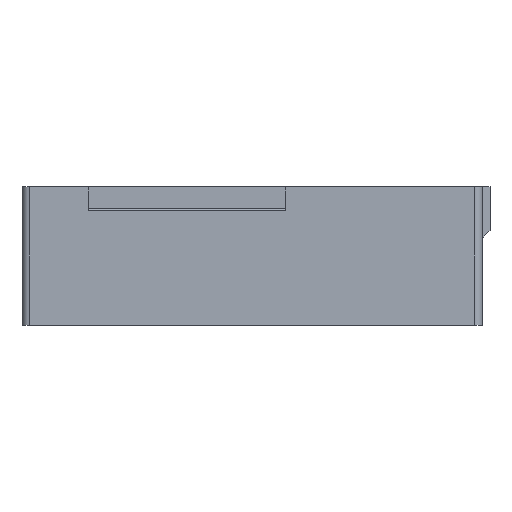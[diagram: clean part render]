
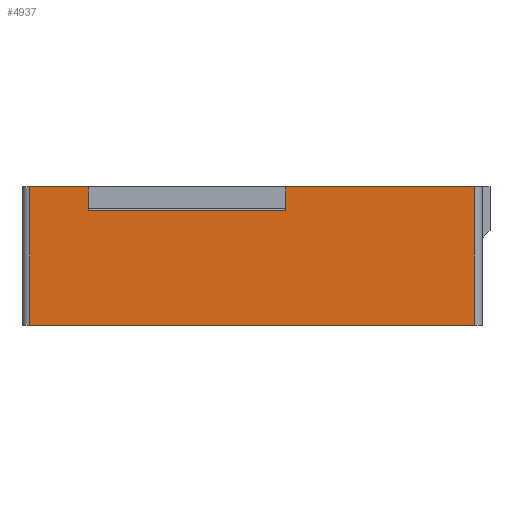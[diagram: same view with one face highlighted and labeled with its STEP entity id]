
A CAD part, left-side view. The second image highlights one B-rep face of the part: STEP entity #4937.
In plain terms, the highlighted planar face has unit normal (-1, 0, 0).
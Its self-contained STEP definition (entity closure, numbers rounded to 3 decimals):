
#245=FACE_OUTER_BOUND('',#508,.T.);
#508=EDGE_LOOP('',(#3428,#3429,#3430,#3431,#3432,#3433,#3434,#3435));
#902=LINE('',#6912,#1548);
#903=LINE('',#6919,#1549);
#907=LINE('',#6927,#1553);
#910=LINE('',#6932,#1556);
#922=LINE('',#6974,#1568);
#923=LINE('',#6976,#1569);
#924=LINE('',#6978,#1570);
#925=LINE('',#6979,#1571);
#1548=VECTOR('',#5588,10.);
#1549=VECTOR('',#5595,10.);
#1553=VECTOR('',#5601,10.);
#1556=VECTOR('',#5606,10.);
#1568=VECTOR('',#5622,10.);
#1569=VECTOR('',#5623,10.);
#1570=VECTOR('',#5624,10.);
#1571=VECTOR('',#5625,10.);
#2189=VERTEX_POINT('',#6909);
#2190=VERTEX_POINT('',#6911);
#2192=VERTEX_POINT('',#6917);
#2193=VERTEX_POINT('',#6918);
#2196=VERTEX_POINT('',#6926);
#2209=VERTEX_POINT('',#6973);
#2210=VERTEX_POINT('',#6975);
#2211=VERTEX_POINT('',#6977);
#2674=EDGE_CURVE('',#2189,#2190,#902,.T.);
#2677=EDGE_CURVE('',#2192,#2193,#903,.T.);
#2681=EDGE_CURVE('',#2196,#2192,#907,.T.);
#2684=EDGE_CURVE('',#2189,#2196,#910,.T.);
#2698=EDGE_CURVE('',#2209,#2193,#922,.T.);
#2699=EDGE_CURVE('',#2210,#2209,#923,.T.);
#2700=EDGE_CURVE('',#2211,#2210,#924,.T.);
#2701=EDGE_CURVE('',#2190,#2211,#925,.T.);
#3428=ORIENTED_EDGE('',*,*,#2684,.T.);
#3429=ORIENTED_EDGE('',*,*,#2681,.T.);
#3430=ORIENTED_EDGE('',*,*,#2677,.T.);
#3431=ORIENTED_EDGE('',*,*,#2698,.F.);
#3432=ORIENTED_EDGE('',*,*,#2699,.F.);
#3433=ORIENTED_EDGE('',*,*,#2700,.F.);
#3434=ORIENTED_EDGE('',*,*,#2701,.F.);
#3435=ORIENTED_EDGE('',*,*,#2674,.F.);
#4720=PLANE('',#5193);
#4937=ADVANCED_FACE('',(#245),#4720,.T.);
#5193=AXIS2_PLACEMENT_3D('',#6972,#5620,#5621);
#5588=DIRECTION('',(0.,-1.,0.));
#5595=DIRECTION('',(0.,0.,1.));
#5601=DIRECTION('',(0.,1.,0.));
#5606=DIRECTION('',(0.,0.,-1.));
#5620=DIRECTION('center_axis',(-1.,0.,0.));
#5621=DIRECTION('ref_axis',(0.,-1.,0.));
#5622=DIRECTION('',(0.,-1.,0.));
#5623=DIRECTION('',(0.,0.,1.));
#5624=DIRECTION('',(0.,1.,0.));
#5625=DIRECTION('',(0.,0.,-1.));
#6909=CARTESIAN_POINT('',(-151.,-53.802,35.));
#6911=CARTESIAN_POINT('',(-151.,-101.552,35.));
#6912=CARTESIAN_POINT('',(-151.,-103.552,35.));
#6917=CARTESIAN_POINT('',(-151.,-3.802,29.));
#6918=CARTESIAN_POINT('',(-151.,-3.802,35.));
#6919=CARTESIAN_POINT('',(-151.,-3.802,14.5));
#6926=CARTESIAN_POINT('',(-151.,-53.802,29.));
#6927=CARTESIAN_POINT('',(-151.,-20.427,29.));
#6932=CARTESIAN_POINT('',(-151.,-53.802,17.5));
#6972=CARTESIAN_POINT('Origin',(-151.,12.948,0.));
#6973=CARTESIAN_POINT('',(-151.,10.948,35.));
#6974=CARTESIAN_POINT('',(-151.,-103.552,35.));
#6975=CARTESIAN_POINT('',(-151.,10.948,0.));
#6976=CARTESIAN_POINT('',(-151.,10.948,0.));
#6977=CARTESIAN_POINT('',(-151.,-101.552,0.));
#6978=CARTESIAN_POINT('',(-151.,-103.552,0.));
#6979=CARTESIAN_POINT('',(-151.,-101.552,0.));
